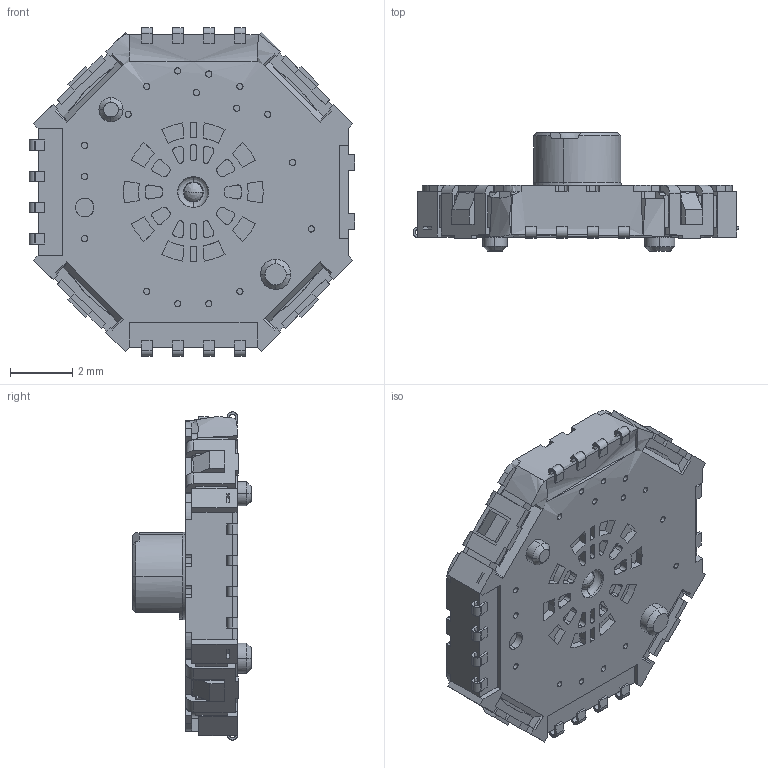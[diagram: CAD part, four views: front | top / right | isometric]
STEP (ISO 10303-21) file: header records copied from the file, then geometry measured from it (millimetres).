
FILE_DESCRIPTION (( 'STEP AP214' ), '1' );
FILE_NAME ('SRBD150201.STEP', '2011-06-21T09:10:54', ( '' ), ( '' ), 'SwSTEP 2.0', 'SolidWorks 2007', '' );
FILE_SCHEMA (( 'AUTOMOTIVE_DESIGN' ));
Length unit declared in the file: millimetre
Products named in the file (1): SRBD150201
Bounding box: 10.48 x 3.81 x 10.57 mm (x, y, z)
Volume: 146.1 mm3; surface area: 294.4 mm2
Topology: 1 solids, 1 shells, 1032 faces, 2912 edges, 1909 vertices
Faces by surface type: plane 605, cylinder 342, bspline 59, cone 26
Entity records: 47802 total; most frequent: CARTESIAN_POINT 11804, ORIENTED_EDGE 5820, DIRECTION 3949, EDGE_CURVE 2910, VERTEX_POINT 1909, LINE 1793, VECTOR 1793, EDGE_LOOP 1101
